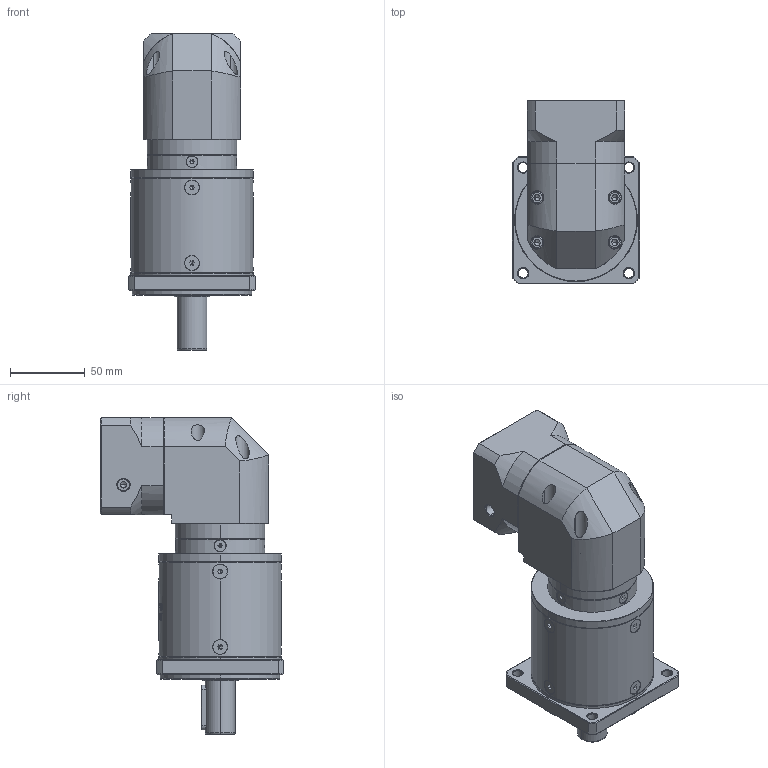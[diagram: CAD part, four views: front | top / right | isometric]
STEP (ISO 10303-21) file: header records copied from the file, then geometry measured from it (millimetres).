
FILE_DESCRIPTION (( 'STEP AP214' ), '1' );
FILE_NAME ('ZFR080-D20-L3-P2-14-60-75-M6.step', '2023-08-25T07:19:58', ( '' ), ( '' ), 'SwSTEP 2.0', 'SolidWorks 2016', '' );
FILE_SCHEMA (( 'AUTOMOTIVE_DESIGN' ));
Length unit declared in the file: millimetre
Products named in the file (1): ZFR080-D20-L3-P2-14-60-75-M6
Bounding box: 85 x 122.7 x 212 mm (x, y, z)
Volume: 902251.4 mm3; surface area: 108849.2 mm2
Topology: 17 solids, 18 shells, 2449 faces, 6413 edges, 4079 vertices
Faces by surface type: plane 1176, cylinder 450, bspline 394, cone 381, torus 48
Entity records: 127171 total; most frequent: CARTESIAN_POINT 44741, ORIENTED_EDGE 12734, DIRECTION 9887, EDGE_CURVE 6367, VERTEX_POINT 4079, LINE 3375, VECTOR 3375, AXIS2_PLACEMENT_3D 3256
